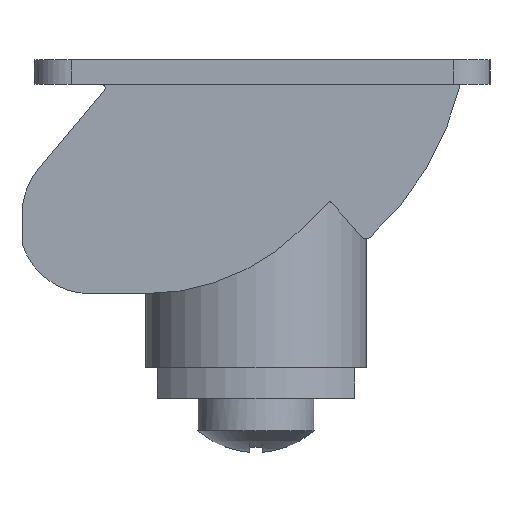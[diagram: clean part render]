
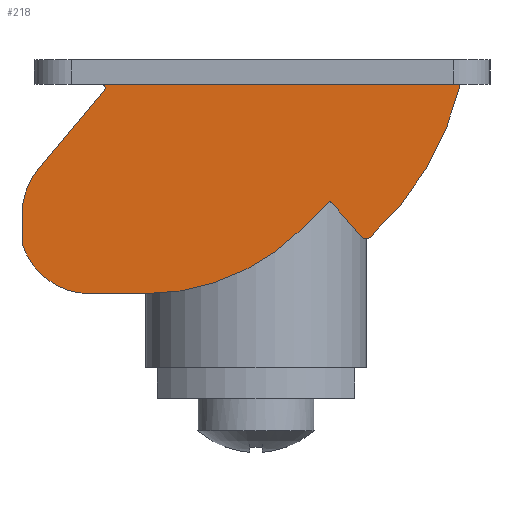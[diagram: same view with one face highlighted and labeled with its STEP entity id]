
A CAD part, left-side view. The second image highlights one B-rep face of the part: STEP entity #218.
In plain terms, the highlighted planar face has unit normal (-1, 0, 0).
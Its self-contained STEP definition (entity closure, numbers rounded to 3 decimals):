
#218 = ADVANCED_FACE( '', ( #372 ), #373, .F. );
#372 = FACE_OUTER_BOUND( '', #578, .T. );
#373 = PLANE( '', #579 );
#578 = EDGE_LOOP( '', ( #1065, #1066, #1067, #1068, #1069, #1070, #1071, #1072, #1073, #1074, #1075, #1076, #1077 ) );
#579 = AXIS2_PLACEMENT_3D( '', #1078, #1079, #1080 );
#1065 = ORIENTED_EDGE( '', *, *, #1577, .F. );
#1066 = ORIENTED_EDGE( '', *, *, #1578, .T. );
#1067 = ORIENTED_EDGE( '', *, *, #1579, .T. );
#1068 = ORIENTED_EDGE( '', *, *, #1580, .F. );
#1069 = ORIENTED_EDGE( '', *, *, #1581, .F. );
#1070 = ORIENTED_EDGE( '', *, *, #1582, .F. );
#1071 = ORIENTED_EDGE( '', *, *, #1583, .F. );
#1072 = ORIENTED_EDGE( '', *, *, #1584, .F. );
#1073 = ORIENTED_EDGE( '', *, *, #1585, .F. );
#1074 = ORIENTED_EDGE( '', *, *, #1586, .F. );
#1075 = ORIENTED_EDGE( '', *, *, #1587, .T. );
#1076 = ORIENTED_EDGE( '', *, *, #1588, .F. );
#1077 = ORIENTED_EDGE( '', *, *, #1589, .F. );
#1078 = CARTESIAN_POINT( '', ( -99., 7.058, 5.589 ) );
#1079 = DIRECTION( '', ( 1., 0., 0. ) );
#1080 = DIRECTION( '', ( 0., 0., -1. ) );
#1577 = EDGE_CURVE( '', #1904, #1905, #1906, .T. );
#1578 = EDGE_CURVE( '', #1904, #1907, #1908, .T. );
#1579 = EDGE_CURVE( '', #1907, #1909, #1910, .T. );
#1580 = EDGE_CURVE( '', #1911, #1909, #1912, .T. );
#1581 = EDGE_CURVE( '', #1913, #1911, #1914, .T. );
#1582 = EDGE_CURVE( '', #1915, #1913, #1916, .T. );
#1583 = EDGE_CURVE( '', #1917, #1915, #1918, .T. );
#1584 = EDGE_CURVE( '', #1919, #1917, #1920, .T. );
#1585 = EDGE_CURVE( '', #1921, #1919, #1922, .T. );
#1586 = EDGE_CURVE( '', #1923, #1921, #1924, .T. );
#1587 = EDGE_CURVE( '', #1923, #1925, #1926, .T. );
#1588 = EDGE_CURVE( '', #1927, #1925, #1928, .T. );
#1589 = EDGE_CURVE( '', #1905, #1927, #1929, .T. );
#1904 = VERTEX_POINT( '', #2390 );
#1905 = VERTEX_POINT( '', #2391 );
#1906 = CIRCLE( '', #2392, 24.298 );
#1907 = VERTEX_POINT( '', #2393 );
#1908 = LINE( '', #2394, #2395 );
#1909 = VERTEX_POINT( '', #2396 );
#1910 = CIRCLE( '', #2397, 0.3 );
#1911 = VERTEX_POINT( '', #2398 );
#1912 = LINE( '', #2399, #2400 );
#1913 = VERTEX_POINT( '', #2401 );
#1914 = CIRCLE( '', #2402, 5.8 );
#1915 = VERTEX_POINT( '', #2403 );
#1916 = LINE( '', #2404, #2405 );
#1917 = VERTEX_POINT( '', #2406 );
#1918 = CIRCLE( '', #2407, 5.8 );
#1919 = VERTEX_POINT( '', #2408 );
#1920 = LINE( '', #2409, #2410 );
#1921 = VERTEX_POINT( '', #2411 );
#1922 = CIRCLE( '', #2412, 18. );
#1923 = VERTEX_POINT( '', #2413 );
#1924 = LINE( '', #2414, #2415 );
#1925 = VERTEX_POINT( '', #2416 );
#1926 = CIRCLE( '', #2417, 0.2 );
#1927 = VERTEX_POINT( '', #2418 );
#1928 = LINE( '', #2419, #2420 );
#1929 = CIRCLE( '', #2421, 0.5 );
#2390 = CARTESIAN_POINT( '', ( -99., -16.589, 0. ) );
#2391 = CARTESIAN_POINT( '', ( -99., -9.265, -12.411 ) );
#2392 = AXIS2_PLACEMENT_3D( '', #2863, #2864, #2865 );
#2393 = CARTESIAN_POINT( '', ( -99., 12.552, 0. ) );
#2394 = CARTESIAN_POINT( '', ( -99., 15., 0. ) );
#2395 = VECTOR( '', #2866, 1000. );
#2396 = CARTESIAN_POINT( '', ( -99., 12.322, -0.493 ) );
#2397 = AXIS2_PLACEMENT_3D( '', #2867, #2868, #2869 );
#2398 = CARTESIAN_POINT( '', ( -99., 17.643, -6.834 ) );
#2399 = CARTESIAN_POINT( '', ( -99., 17.643, -6.834 ) );
#2400 = VECTOR( '', #2870, 1000. );
#2401 = CARTESIAN_POINT( '', ( -99., 19., -10.562 ) );
#2402 = AXIS2_PLACEMENT_3D( '', #2871, #2872, #2873 );
#2403 = CARTESIAN_POINT( '', ( -99., 19., -12.917 ) );
#2404 = CARTESIAN_POINT( '', ( -99., 19., -12.917 ) );
#2405 = VECTOR( '', #2874, 1000. );
#2406 = CARTESIAN_POINT( '', ( -99., 13.46, -17. ) );
#2407 = AXIS2_PLACEMENT_3D( '', #2875, #2876, #2877 );
#2408 = CARTESIAN_POINT( '', ( -99., 8.987, -17. ) );
#2409 = CARTESIAN_POINT( '', ( -99., 8.987, -17. ) );
#2410 = VECTOR( '', #2878, 1000. );
#2411 = CARTESIAN_POINT( '', ( -99., -3.741, -11.728 ) );
#2412 = AXIS2_PLACEMENT_3D( '', #2879, #2880, #2881 );
#2413 = CARTESIAN_POINT( '', ( -99., -5.865, -9.604 ) );
#2414 = CARTESIAN_POINT( '', ( -99., -5.865, -9.604 ) );
#2415 = VECTOR( '', #2882, 1000. );
#2416 = CARTESIAN_POINT( '', ( -99., -6.157, -9.614 ) );
#2417 = AXIS2_PLACEMENT_3D( '', #2883, #2884, #2885 );
#2418 = CARTESIAN_POINT( '', ( -99., -8.551, -12.368 ) );
#2419 = CARTESIAN_POINT( '', ( -99., -8.551, -12.368 ) );
#2420 = VECTOR( '', #2886, 1000. );
#2421 = AXIS2_PLACEMENT_3D( '', #2887, #2888, #2889 );
#2863 = CARTESIAN_POINT( '', ( -99., 7.058, 5.589 ) );
#2864 = DIRECTION( '', ( 1., 0., 0. ) );
#2865 = DIRECTION( '', ( 0., 0., -1. ) );
#2866 = DIRECTION( '', ( 0., 1., 0. ) );
#2867 = CARTESIAN_POINT( '', ( -99., 12.552, -0.3 ) );
#2868 = DIRECTION( '', ( 1., 0., 0. ) );
#2869 = DIRECTION( '', ( 0., 0., -1. ) );
#2870 = DIRECTION( '', ( 0., -0.643, 0.766 ) );
#2871 = CARTESIAN_POINT( '', ( -99., 13.2, -10.562 ) );
#2872 = DIRECTION( '', ( 1., 0., 0. ) );
#2873 = DIRECTION( '', ( 0., 0., -1. ) );
#2874 = DIRECTION( '', ( 0., 0., 1. ) );
#2875 = CARTESIAN_POINT( '', ( -99., 13.46, -11.2 ) );
#2876 = DIRECTION( '', ( 1., 0., 0. ) );
#2877 = DIRECTION( '', ( 0., 0., -1. ) );
#2878 = DIRECTION( '', ( 0., 1., 0. ) );
#2879 = CARTESIAN_POINT( '', ( -99., 8.987, 1. ) );
#2880 = DIRECTION( '', ( 1., 0., 0. ) );
#2881 = DIRECTION( '', ( 0., 0., -1. ) );
#2882 = DIRECTION( '', ( 0., 0.707, -0.707 ) );
#2883 = CARTESIAN_POINT( '', ( -99., -6.006, -9.745 ) );
#2884 = DIRECTION( '', ( 1., 0., 0. ) );
#2885 = DIRECTION( '', ( 0., 0., -1. ) );
#2886 = DIRECTION( '', ( 0., 0.656, 0.755 ) );
#2887 = CARTESIAN_POINT( '', ( -99., -8.929, -12.04 ) );
#2888 = DIRECTION( '', ( 1., 0., 0. ) );
#2889 = DIRECTION( '', ( 0., 0., -1. ) );
